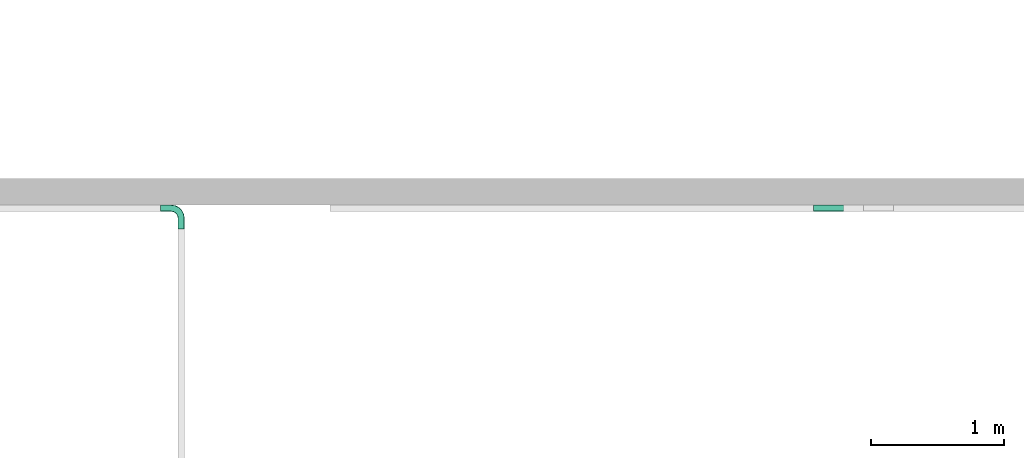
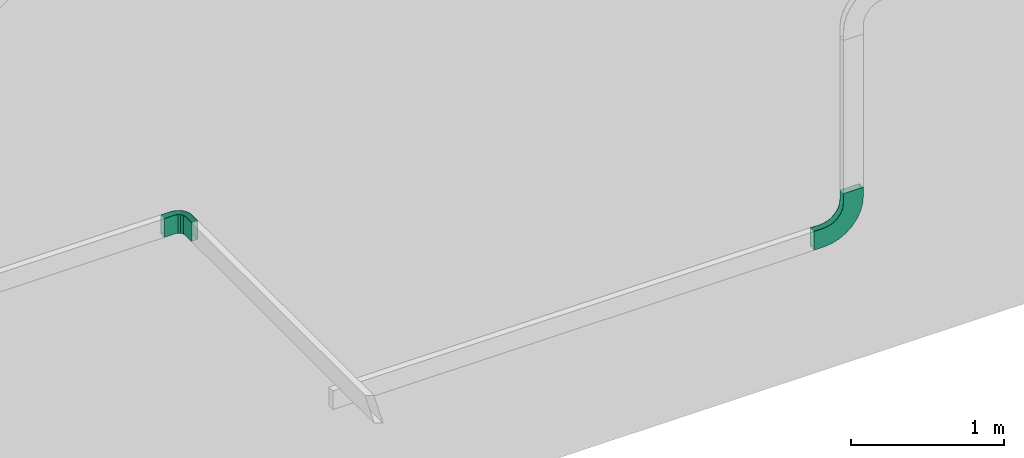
# One storey, part 38 of 197: 2 flow fittings.
"""IFC2X3 building model written with IfcOpenShell, lengths in metres."""

import ifcopenshell
import ifcopenshell.guid

model = None  # the IFC model being written
_history = None  # IfcOwnerHistory: only IFC2X3 demands one
_inside = {}  # id of a spatial element -> (the spatial element, [elements in it])
_under = {}  # id of a project, library or spatial element -> (it, [spatial elements below it])
_declared = {}  # id of a project -> (the project, [libraries it declares])
_typed = {}  # id of a type object -> (the type object, [elements of that type])
_made_of = {}  # id of a material, layer set ... -> (it, [elements and type objects made of it])


def new_model(schema):
    """Start an empty IFC model of exactly this schema.

    Asked for "IFC4X3", IfcOpenShell would pick the latest addendum, in which some entities
    have other attributes; the version numbers below select the first issue.
    IFC2X3 requires an IfcOwnerHistory on every rooted entity: one is made here for all.
    """
    global model, _history
    if schema == "IFC4X3":
        model = ifcopenshell.file(schema_version=(4, 3, 0, 0))
    else:
        model = ifcopenshell.file(schema=schema)
    _inside.clear()
    _under.clear()
    _declared.clear()
    _typed.clear()
    _made_of.clear()
    _history = None
    if model.schema == "IFC2X3":
        org = make("IfcOrganization", Name="unknown")
        user = make(
            "IfcPersonAndOrganization",
            ThePerson=make("IfcPerson", FamilyName="unknown"),
            TheOrganization=org,
        )
        app = make(
            "IfcApplication",
            ApplicationDeveloper=org,
            Version="unknown",
            ApplicationFullName="unknown",
            ApplicationIdentifier="unknown",
        )
        _history = make(
            "IfcOwnerHistory",
            OwningUser=user,
            OwningApplication=app,
            ChangeAction="ADDED",
            CreationDate=0,
        )
    return model


def make(cls, **values):
    """One entity of the class cls with the attributes given. An attribute that is None is left unset."""
    return model.create_entity(
        cls, **{name: value for name, value in values.items() if value is not None}
    )


def entity(cls, *values):
    """Any entity or typed value of the class cls, its attributes in the order of the schema. None: left unset."""
    e = model.create_entity(cls)
    for i, value in enumerate(values):
        if value is not None:
            e[i] = value
    return e


def rooted(cls, **values):
    """An entity with a GlobalId (a new one), such as an element, a storey or a relation."""
    return make(cls, GlobalId=ifcopenshell.guid.new(), OwnerHistory=_history, **values)


def si_unit(unit_type, name, prefix=None):
    """IfcSIUnit, for example si_unit("LENGTHUNIT", "METRE", prefix="MILLI")."""
    return make("IfcSIUnit", UnitType=unit_type, Prefix=prefix, Name=name)


def converted_unit(unit_type, name, factor, base, dimensions=None, offset=None):
    """IfcConversionBasedUnit, such as the inch: factor (a typed value) times the base unit."""
    return make(
        "IfcConversionBasedUnit"
        if offset is None
        else "IfcConversionBasedUnitWithOffset",
        ConversionOffset=offset,
        Dimensions=None
        if dimensions is None
        else entity("IfcDimensionalExponents", *dimensions),
        UnitType=unit_type,
        Name=name,
        ConversionFactor=make(
            "IfcMeasureWithUnit", ValueComponent=factor, UnitComponent=base
        ),
    )


def assignment(units):
    """IfcUnitAssignment: the units of a project."""
    return None if units is None else make("IfcUnitAssignment", Units=units)


def point(xyz):
    """IfcCartesianPoint."""
    return None if xyz is None else make("IfcCartesianPoint", Coordinates=xyz)


def direction(xyz):
    """IfcDirection."""
    return None if xyz is None else make("IfcDirection", DirectionRatios=xyz)


def frame(location, z_axis=None, x_axis=None):
    """IfcAxis2Placement3D, a coordinate frame: its origin and axes. An axis left out is left unset."""
    return make(
        "IfcAxis2Placement3D",
        Location=point(location),
        Axis=direction(z_axis),
        RefDirection=direction(x_axis),
    )


def origin():
    """The frame at (0, 0, 0) with its axes left unset."""
    return frame((0.0, 0.0, 0.0))


def place(relative_to, where):
    """IfcLocalPlacement: puts the frame where relative to a parent placement (None: the world)."""
    return make(
        "IfcLocalPlacement", PlacementRelTo=relative_to, RelativePlacement=where
    )


def context(
    kind, dimensions, precision=None, world=None, true_north=None, identifier=None
):
    """IfcGeometricRepresentationContext, for example the 3D "Model" context."""
    return make(
        "IfcGeometricRepresentationContext",
        ContextIdentifier=identifier,
        ContextType=kind,
        CoordinateSpaceDimension=dimensions,
        Precision=precision,
        WorldCoordinateSystem=world,
        TrueNorth=true_north,
    )


def subcontext(parent, identifier, kind, view, scale=None):
    """IfcGeometricRepresentationSubContext, for example "Body" below "Model"."""
    return make(
        "IfcGeometricRepresentationSubContext",
        ContextIdentifier=identifier,
        ContextType=kind,
        ParentContext=parent,
        TargetScale=scale,
        TargetView=view,
    )


def project(units=None, contexts=None):
    """IfcProject with its units and contexts."""
    return rooted(
        "IfcProject",
        Name="project",
        RepresentationContexts=contexts,
        UnitsInContext=assignment(units),
    )


def spatial(cls, under=None, at=None, **own):
    """A site, building, storey or space (cls), placed at a placement, below another one or the project."""
    s = rooted(cls, ObjectPlacement=at, **own)
    if under is not None:
        _under.setdefault(under.id(), (under, []))[1].append(s)
    return s


def faces_of(points, faces, orient=None, outer=None):
    """IfcFace entities. A face is a list of loops; a loop is a list of indices into points, from 0.

    orient and outer hold one flag for each loop. By default every Orientation is true, the
    first loop of a face is its IfcFaceOuterBound and the others are IfcFaceBound.
    """
    made = []
    for i, loops in enumerate(faces):
        bounds = []
        for j, loop in enumerate(loops):
            is_outer = j == 0 if outer is None else outer[i][j]
            bounds.append(
                make(
                    "IfcFaceOuterBound" if is_outer else "IfcFaceBound",
                    Bound=make("IfcPolyLoop", Polygon=[points[k] for k in loop]),
                    Orientation=True if orient is None else orient[i][j],
                )
            )
        made.append(make("IfcFace", Bounds=bounds))
    return made


def faceted_brep(points, faces, orient=None, outer=None, voids=None):
    """IfcFacetedBrep: a solid bounded by flat faces; with voids (closed shells), ...WithVoids."""
    shared = [point(p) for p in points]
    hull = make("IfcClosedShell", CfsFaces=faces_of(shared, faces, orient, outer))
    if voids is None:
        return make("IfcFacetedBrep", Outer=hull)
    return make(
        "IfcFacetedBrepWithVoids",
        Outer=hull,
        Voids=[
            make(cls, CfsFaces=faces_of(shared, fs, o, b)) for cls, fs, o, b in voids
        ],
    )


def shape(context_of_items, identifier, shape_type, items):
    """IfcShapeRepresentation: the items that make up one representation, for example the "Body"."""
    return make(
        "IfcShapeRepresentation",
        ContextOfItems=context_of_items,
        RepresentationIdentifier=identifier,
        RepresentationType=shape_type,
        Items=items,
    )


def source(mapping_origin, context_of_items, identifier, shape_type, items):
    """IfcRepresentationMap: a shape defined once, which mapped items show again and again."""
    return make(
        "IfcRepresentationMap",
        MappingOrigin=mapping_origin,
        MappedRepresentation=shape(context_of_items, identifier, shape_type, items),
    )


def transform(
    local_origin,
    x_axis=None,
    y_axis=None,
    z_axis=None,
    scale=None,
    scale2=None,
    scale3=None,
    uniform=True,
):
    """IfcCartesianTransformationOperator3D, or its non-uniform kind. x_axis, y_axis, z_axis: its Axis1, 2, 3."""
    if uniform:
        return make(
            "IfcCartesianTransformationOperator3D",
            Axis1=direction(x_axis),
            Axis2=direction(y_axis),
            LocalOrigin=point(local_origin),
            Scale=scale,
            Axis3=direction(z_axis),
        )
    return make(
        "IfcCartesianTransformationOperator3DnonUniform",
        Axis1=direction(x_axis),
        Axis2=direction(y_axis),
        LocalOrigin=point(local_origin),
        Scale=scale,
        Axis3=direction(z_axis),
        Scale2=scale2,
        Scale3=scale3,
    )


def mapped(mapping_source, mapping_target):
    """IfcMappedItem: shows the shape of a source again, moved by a transform."""
    return make(
        "IfcMappedItem", MappingSource=mapping_source, MappingTarget=mapping_target
    )


def material(Name=None, Category=None):
    """IfcMaterial."""
    return make("IfcMaterial", Name=Name, Category=Category)


def made_of(thing, what):
    """Note that an element or type object is made of a material, layer set ...; save() writes the relation."""
    if what is not None:
        _made_of.setdefault(what.id(), (what, []))[1].append(thing)
    return thing


def type_object(cls, material=None, **own):
    """A type object (cls), such as IfcWallType, which elements share."""
    return made_of(rooted(cls, **own), material)


def type_shapes(of_type, sources):
    """Give a type object the sources (RepresentationMaps) that its elements show as mapped items."""
    of_type.RepresentationMaps = sources


def element(
    cls,
    number,
    at=None,
    inside=None,
    cuts=None,
    type_object=None,
    material=None,
    context=None,
    identifier="Body",
    shape_type=None,
    held_by="IfcProductDefinitionShape",
    body=None,
    shapes=None,
    **own,
):
    """One element of the class cls, such as IfcWall. Its Tag is "e" and its number.

    at: its placement. inside: the storey or other place that contains it. cuts: it is an
    opening in that element (IfcRelVoidsElement). A single representation is given by context,
    identifier, shape_type and body (its items); several are given by shapes. held_by: the class
    of the entity that holds the representations. save() writes the other relations.
    """
    e = rooted(cls, Tag="e%d" % number, ObjectPlacement=at, **own)
    if body is not None:
        shapes = [shape(context, identifier, shape_type, body)]
    if shapes is not None:
        e.Representation = make(held_by, Representations=shapes)
    if inside is not None:
        _inside.setdefault(inside.id(), (inside, []))[1].append(e)
    if cuts is not None:
        rooted(
            "IfcRelVoidsElement", RelatingBuildingElement=cuts, RelatedOpeningElement=e
        )
    if type_object is not None:
        _typed.setdefault(type_object.id(), (type_object, []))[1].append(e)
    return made_of(e, material)


def aggregate(whole, parts):
    """IfcRelAggregates: a whole, such as a stair, and the parts it consists of."""
    return rooted("IfcRelAggregates", RelatingObject=whole, RelatedObjects=parts)


def save(model, path):
    """Write the relations noted so far, then the file.

    IfcRelAggregates (storeys below a building ...), IfcRelContainedInSpatialStructure (elements
    in a storey), IfcRelDefinesByType, IfcRelAssociatesMaterial and IfcRelDeclares: one each for
    every whole, place, type object, material and project.
    """
    for whole, parts in _under.values():
        aggregate(whole, parts)
    for where, things in _inside.values():
        rooted(
            "IfcRelContainedInSpatialStructure",
            RelatedElements=things,
            RelatingStructure=where,
        )
    for kind, things in _typed.values():
        rooted("IfcRelDefinesByType", RelatedObjects=things, RelatingType=kind)
    for what, things in _made_of.values():
        rooted("IfcRelAssociatesMaterial", RelatedObjects=things, RelatingMaterial=what)
    for by, libraries in _declared.values():
        rooted("IfcRelDeclares", RelatingContext=by, RelatedDefinitions=libraries)
    model.write(path)


model = new_model("IFC2X3")

# Units and contexts
model_context = context("Model", 3, precision=1e-05, world=origin(), true_north=direction((6.123031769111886e-17, 1.0)))
body_context = subcontext(model_context, "Body", "Model", "MODEL_VIEW")
ifc_project = project(units=[si_unit("LENGTHUNIT", "METRE"), converted_unit("PLANEANGLEUNIT", "DEGREE", entity("IfcPlaneAngleMeasure", 0.017453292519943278), si_unit("PLANEANGLEUNIT", "RADIAN"), dimensions=[0, 0, 0, 0, 0, 0, 0]), si_unit("AREAUNIT", "SQUARE_METRE")], contexts=[model_context])

# Site, building, storey
site_placement = place(None, origin())
site = spatial("IfcSite", under=ifc_project, at=site_placement, Name="Default", CompositionType="ELEMENT")
building_placement = place(site_placement, origin())
building = spatial("IfcBuilding", under=site, at=building_placement, CompositionType="ELEMENT")
storey_placement = place(building_placement, origin())
storey = spatial("IfcBuildingStorey", under=building, at=storey_placement, Name="Niveau 0", CompositionType="ELEMENT", Elevation=0.0)

# Flow fittings
ifc_material = material(Name="<Unnamed>")
cable_carrier_fitting_type_1 = type_object("IfcCableCarrierFittingType", Name="Chemin de câbles - Courbure concave:GOULOTTE", PredefinedType="NOTDEFINED", material=ifc_material)
shared_shape_1 = source(origin(), body_context, "Body", "Brep", [
    faceted_brep([(-0.2999999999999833, -0.0724600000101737, -0.022460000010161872), (-0.29999999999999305, 0.07499999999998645, -0.022460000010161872), (-0.29999999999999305, 0.07499999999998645, -0.025000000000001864), (-0.2999999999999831, -0.07500000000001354, -0.025000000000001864), (-0.2999999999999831, -0.07500000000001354, 0.024999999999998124), (-0.29999999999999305, 0.07499999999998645, 0.024999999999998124), (-0.29999999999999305, 0.07499999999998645, 0.022460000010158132), (-0.2999999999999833, -0.0724600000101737, 0.022460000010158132), (-0.22499999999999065, -0.0750000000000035, 0.024999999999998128), (-0.16647290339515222, -0.06923558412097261, 0.02499999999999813), (-0.11019497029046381, -0.05216385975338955, 0.02499999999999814), (-0.05832893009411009, -0.02444088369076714, 0.02499999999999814), (-0.012867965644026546, 0.01286796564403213, 0.024999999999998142), (0.024440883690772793, 0.058328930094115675, 0.024999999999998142), (0.05216385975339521, 0.11019497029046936, 0.024999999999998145), (0.0692355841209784, 0.16647290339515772, 0.024999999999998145), (0.07500000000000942, 0.2249999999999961, 0.024999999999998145), (0.07500000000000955, 0.2999999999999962, 0.024999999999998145), (-0.07499999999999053, 0.2999999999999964, 0.02499999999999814), (-0.07499999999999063, 0.2249999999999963, 0.02499999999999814), (-0.07673936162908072, 0.21178823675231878, 0.024999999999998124), (-0.0775555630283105, 0.20558857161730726, 0.024999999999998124), (-0.07883334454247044, 0.19588285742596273, 0.024999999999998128), (-0.08011112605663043, 0.18617714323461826, 0.02499999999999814), (-0.08385739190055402, 0.17713285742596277, 0.024999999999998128), (-0.08760365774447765, 0.16808857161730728, 0.024999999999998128), (-0.09134992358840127, 0.15904428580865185, 0.024999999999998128), (-0.0950961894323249, 0.14999999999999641, 0.02499999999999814), (-0.1010556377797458, 0.14223349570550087, 0.024999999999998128), (-0.10701508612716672, 0.13446699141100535, 0.024999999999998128), (-0.11297453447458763, 0.12670048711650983, 0.024999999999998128), (-0.11893398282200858, 0.1189339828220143, 0.02499999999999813), (-0.12670048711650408, 0.1129745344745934, 0.024999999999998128), (-0.13446699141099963, 0.10701508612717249, 0.024999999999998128), (-0.14223349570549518, 0.10105563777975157, 0.024999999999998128), (-0.1499999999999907, 0.09509618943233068, 0.02499999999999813), (-0.15904428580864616, 0.09134992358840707, 0.024999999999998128), (-0.16808857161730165, 0.08760365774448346, 0.024999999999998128), (-0.17713285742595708, 0.08385739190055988, 0.02499999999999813), (-0.18617714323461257, 0.08011112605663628, 0.02499999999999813), (-0.1958828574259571, 0.07883334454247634, 0.024999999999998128), (-0.2055885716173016, 0.07755556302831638, 0.024999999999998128), (-0.21178823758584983, 0.07673936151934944, 0.024999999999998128), (-0.22499999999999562, 0.07499999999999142, 0.024999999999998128), (-0.22499999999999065, -0.07500000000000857, -0.025000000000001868), (-0.16647290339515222, -0.06923558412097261, -0.02500000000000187), (-0.22499999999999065, 0.07499999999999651, -0.025000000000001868), (-0.2117882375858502, 0.0767393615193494, -0.025000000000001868), (-0.1985764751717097, 0.07847872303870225, -0.025000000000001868), (-0.18617714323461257, 0.08011112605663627, -0.02500000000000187), (-0.17713285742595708, 0.08385739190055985, -0.025000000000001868), (-0.16808857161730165, 0.08760365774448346, -0.025000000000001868), (-0.15904428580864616, 0.09134992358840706, -0.025000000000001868), (-0.1499999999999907, 0.09509618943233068, -0.02500000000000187), (-0.14223349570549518, 0.10105563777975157, -0.025000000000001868), (-0.13446699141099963, 0.10701508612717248, -0.025000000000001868), (-0.12670048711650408, 0.1129745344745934, -0.025000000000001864), (-0.11893398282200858, 0.11893398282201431, -0.02500000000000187), (-0.11297453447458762, 0.12670048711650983, -0.025000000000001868), (-0.1070150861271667, 0.13446699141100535, -0.025000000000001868), (-0.1010556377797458, 0.14223349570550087, -0.025000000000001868), (-0.0950961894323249, 0.14999999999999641, -0.025000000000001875), (-0.09134992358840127, 0.15904428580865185, -0.025000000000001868), (-0.08760365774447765, 0.16808857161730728, -0.025000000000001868), (-0.08385739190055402, 0.17713285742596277, -0.025000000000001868), (-0.08011112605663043, 0.18617714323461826, -0.025000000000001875), (-0.07847872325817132, 0.19857647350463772, -0.025000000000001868), (-0.07673936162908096, 0.21178823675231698, -0.025000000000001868), (-0.0749999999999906, 0.2249999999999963, -0.025000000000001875), (-0.07499999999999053, 0.2999999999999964, -0.025000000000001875), (0.07500000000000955, 0.2999999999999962, -0.025000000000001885), (0.07500000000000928, 0.22499999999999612, -0.025000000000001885), (0.06923558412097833, 0.16647290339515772, -0.025000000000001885), (0.05216385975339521, 0.11019497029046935, -0.025000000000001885), (0.024440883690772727, 0.058328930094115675, -0.02500000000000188), (-0.012867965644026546, 0.01286796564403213, -0.02500000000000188), (-0.05832893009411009, -0.02444088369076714, -0.025000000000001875), (-0.11019497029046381, -0.05216385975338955, -0.025000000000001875), (-0.22499999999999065, 0.07499999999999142, -0.02246000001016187), (-0.22499999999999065, 0.07499999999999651, 0.02246000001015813), (-0.22499999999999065, -0.07246000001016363, -0.02246000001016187), (-0.16696843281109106, -0.06674438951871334, -0.022460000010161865), (-0.11116698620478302, -0.04981720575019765, -0.02246000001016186), (-0.0597400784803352, -0.022328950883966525, -0.02246000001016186), (-0.014664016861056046, 0.014664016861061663, -0.022460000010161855), (0.022328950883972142, 0.05974007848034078, -0.022460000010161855), (0.049817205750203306, 0.11116698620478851, -0.02246000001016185), (0.0667443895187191, 0.1669684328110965, -0.02246000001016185), (0.0724600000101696, 0.2249999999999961, -0.02246000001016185), (0.07246000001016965, 0.2999999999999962, -0.02246000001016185), (-0.07499999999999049, 0.2999999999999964, -0.02246000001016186), (-0.07499999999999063, 0.2249999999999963, -0.02246000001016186), (-0.07627778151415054, 0.2152942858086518, -0.022460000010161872), (-0.0775555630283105, 0.20558857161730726, -0.022460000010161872), (-0.07883334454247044, 0.19588285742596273, -0.022460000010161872), (-0.08011112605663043, 0.1861771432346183, -0.02246000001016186), (-0.08385739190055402, 0.17713285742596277, -0.02246000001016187), (-0.08760365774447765, 0.16808857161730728, -0.022460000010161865), (-0.09134992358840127, 0.1590442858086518, -0.02246000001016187), (-0.09509618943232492, 0.14999999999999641, -0.02246000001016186), (-0.10105563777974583, 0.14223349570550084, -0.02246000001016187), (-0.10701508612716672, 0.13446699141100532, -0.022460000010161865), (-0.11297453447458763, 0.12670048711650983, -0.02246000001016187), (-0.11893398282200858, 0.11893398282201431, -0.022460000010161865), (-0.12670048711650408, 0.1129745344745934, -0.02246000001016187), (-0.13446699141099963, 0.10701508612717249, -0.02246000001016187), (-0.14223349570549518, 0.10105563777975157, -0.02246000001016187), (-0.1499999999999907, 0.0950961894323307, -0.022460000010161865), (-0.15904428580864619, 0.09134992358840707, -0.02246000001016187), (-0.16808857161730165, 0.08760365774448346, -0.022460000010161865), (-0.1771328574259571, 0.08385739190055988, -0.02246000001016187), (-0.18617714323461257, 0.08011112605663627, -0.022460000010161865), (-0.1958828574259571, 0.07883334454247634, -0.02246000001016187), (-0.2055885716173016, 0.07755556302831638, -0.02246000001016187), (-0.21178823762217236, 0.07673936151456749, -0.02246000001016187), (-0.22499999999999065, -0.07246000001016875, 0.02246000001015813), (-0.16696843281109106, -0.06674438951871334, 0.022460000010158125), (-0.21529428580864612, 0.07627778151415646, 0.02246000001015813), (-0.2055885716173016, 0.07755556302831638, 0.02246000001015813), (-0.1958828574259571, 0.07883334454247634, 0.02246000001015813), (-0.18617714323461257, 0.08011112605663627, 0.022460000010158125), (-0.17713285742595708, 0.08385739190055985, 0.02246000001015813), (-0.16808857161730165, 0.08760365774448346, 0.02246000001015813), (-0.15904428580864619, 0.09134992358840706, 0.02246000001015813), (-0.1499999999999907, 0.09509618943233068, 0.022460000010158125), (-0.14223349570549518, 0.10105563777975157, 0.02246000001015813), (-0.13446699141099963, 0.10701508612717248, 0.02246000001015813), (-0.12670048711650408, 0.1129745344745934, 0.02246000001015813), (-0.11893398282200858, 0.11893398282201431, 0.022460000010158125), (-0.11297453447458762, 0.12670048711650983, 0.02246000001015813), (-0.1070150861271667, 0.13446699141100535, 0.022460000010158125), (-0.10105563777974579, 0.14223349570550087, 0.02246000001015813), (-0.0950961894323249, 0.14999999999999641, 0.02246000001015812), (-0.09134992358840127, 0.1590442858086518, 0.02246000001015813), (-0.08760365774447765, 0.16808857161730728, 0.02246000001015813), (-0.08385739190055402, 0.17713285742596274, 0.02246000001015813), (-0.08011112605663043, 0.18617714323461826, 0.02246000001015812), (-0.07883334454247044, 0.1958828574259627, 0.02246000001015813), (-0.0775555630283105, 0.20558857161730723, 0.02246000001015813), (-0.07627778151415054, 0.2152942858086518, 0.02246000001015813), (-0.0749999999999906, 0.2249999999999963, 0.02246000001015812), (-0.07499999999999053, 0.2999999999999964, 0.02246000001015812), (0.0724600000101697, 0.2999999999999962, 0.02246000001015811), (0.07246000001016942, 0.2249999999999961, 0.02246000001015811), (0.06674438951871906, 0.1669684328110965, 0.02246000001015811), (0.04981720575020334, 0.11116698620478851, 0.02246000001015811), (0.022328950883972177, 0.05974007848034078, 0.022460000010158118), (-0.014664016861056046, 0.014664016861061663, 0.022460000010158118), (-0.0597400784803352, -0.022328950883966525, 0.02246000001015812), (-0.11116698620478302, -0.04981720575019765, 0.02246000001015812)], [[[0, 1, 2, 3, 4, 5, 6, 7]], [[5, 4, 8, 9, 10, 11, 12, 13, 14, 15, 16, 17, 18, 19, 20, 21, 22, 23, 24, 25, 26, 27, 28, 29, 30, 31, 32, 33, 34, 35, 36, 37, 38, 39, 40, 41, 42, 43]], [[4, 3, 44, 8]], [[45, 44, 3, 2, 46, 47, 48, 49, 50, 51, 52, 53, 54, 55, 56, 57, 58, 59, 60, 61, 62, 63, 64, 65, 66, 67, 68, 69, 70, 71, 72, 73, 74, 75, 76, 77]], [[2, 1, 78, 46]], [[6, 5, 43, 79]], [[1, 0, 80, 81, 82, 83, 84, 85, 86, 87, 88, 89, 90, 91, 92, 93, 94, 95, 96, 97, 98, 99, 100, 101, 102, 103, 104, 105, 106, 107, 108, 109, 110, 111, 112, 113, 114, 78]], [[0, 7, 115, 80]], [[116, 115, 7, 6, 79, 117, 118, 119, 120, 121, 122, 123, 124, 125, 126, 127, 128, 129, 130, 131, 132, 133, 134, 135, 136, 137, 138, 139, 140, 141, 142, 143, 144, 145, 146, 147, 148, 149]], [[9, 8, 44, 45]], [[45, 77, 10, 9]], [[76, 11, 10, 77]], [[75, 12, 11, 76]], [[13, 74, 73, 14]], [[14, 73, 72, 15]], [[15, 72, 71, 16]], [[75, 74, 13, 12]], [[46, 78, 114, 113, 112, 111, 49, 48, 47]], [[41, 40, 39, 120, 119, 118, 117, 79, 43, 42]], [[108, 107, 53, 52, 51, 50, 49, 111, 110, 109]], [[35, 124, 123, 122, 121, 120, 39, 38, 37, 36]], [[55, 54, 53, 107, 106, 105, 104, 103, 57, 56]], [[127, 126, 125, 124, 35, 34, 33, 32, 31, 128]], [[95, 94, 93, 92, 91, 68, 67, 66, 65]], [[137, 136, 23, 22, 21, 20, 19, 140, 139, 138]], [[95, 65, 64, 63, 62, 61, 99, 98, 97, 96]], [[24, 23, 136, 135, 134, 133, 132, 27, 26, 25]], [[57, 103, 102, 101, 100, 99, 61, 60, 59, 58]], [[128, 31, 30, 29, 28, 27, 132, 131, 130, 129]], [[81, 80, 115, 116]], [[149, 82, 81, 116]], [[82, 149, 148, 83]], [[148, 147, 84, 83]], [[86, 85, 146, 145]], [[87, 86, 145, 144]], [[88, 87, 144, 143]], [[147, 146, 85, 84]], [[69, 90, 89, 142, 141, 18, 17, 70]], [[16, 71, 70, 17]], [[68, 91, 90, 69]], [[140, 19, 18, 141]], [[88, 143, 142, 89]]]),
])
type_shapes(cable_carrier_fitting_type_1, [shared_shape_1])
flow_fitting_1_placement = place(storey_placement, frame((-524.361454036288, 151.82535524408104, 1.1007853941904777), z_axis=(0.0, -1.0, 0.0), x_axis=(1.0, 0.0, 0.0)))
element("IfcFlowFitting", 1, at=flow_fitting_1_placement, inside=storey, type_object=cable_carrier_fitting_type_1, material=ifc_material, Name="Chemin de câbles - Courbure concave:GOULOTTE", ObjectType="Chemin de câbles - Courbure concave:GOULOTTE", context=body_context, shape_type="MappedRepresentation", body=[
    mapped(shared_shape_1, transform((0.0, 0.0, 0.0), scale=1.0)),
])
cable_carrier_fitting_type_2 = type_object("IfcCableCarrierFittingType", Name="Chemin de câbles - Courbure:GOULOTTE CONTROLE ACCES", PredefinedType="NOTDEFINED", material=ifc_material)
shared_shape_2 = source(origin(), body_context, "Body", "Brep", [
    faceted_brep([(-0.1549999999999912, -0.022460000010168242, -0.07246000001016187), (-0.1549999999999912, 0.02246000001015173, -0.07246000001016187), (-0.1549999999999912, 0.02246000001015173, 0.07499999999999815), (-0.1549999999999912, 0.024999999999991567, 0.07499999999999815), (-0.1549999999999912, 0.024999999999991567, -0.07500000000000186), (-0.1549999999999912, -0.02500000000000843, -0.07500000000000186), (-0.1549999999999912, -0.02500000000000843, 0.07499999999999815), (-0.1549999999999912, -0.02246000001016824, 0.07499999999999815), (-0.07499999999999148, -0.02500000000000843, -0.07500000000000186), (-0.07499999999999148, -0.02500000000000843, 0.07499999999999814), (-0.04409830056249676, -0.020105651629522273, 0.07499999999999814), (-0.0162214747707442, -0.005901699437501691, 0.07499999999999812), (0.005901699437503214, 0.016221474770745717, 0.07499999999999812), (0.020105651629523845, 0.04409830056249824, 0.07499999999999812), (0.02500000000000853, 0.07499999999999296, 0.07499999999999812), (0.0250000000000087, 0.15499999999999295, 0.07499999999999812), (0.022460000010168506, 0.15499999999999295, 0.07499999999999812), (0.0224600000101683, 0.07499999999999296, 0.07499999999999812), (0.0176899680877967, 0.044883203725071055, 0.07499999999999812), (0.003846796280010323, 0.01771444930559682, 0.07499999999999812), (-0.01771444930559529, -0.0038467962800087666, 0.07499999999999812), (-0.04488320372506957, -0.01768996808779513, 0.07499999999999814), (-0.07499999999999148, -0.022460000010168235, 0.07499999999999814), (-0.07499999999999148, 0.02246000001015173, 0.07499999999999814), (-0.06494690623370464, 0.024459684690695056, 0.07499999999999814), (-0.0548938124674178, 0.02645936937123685, 0.07499999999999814), (-0.046371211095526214, 0.032153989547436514, 0.07499999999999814), (-0.03784860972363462, 0.037848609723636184, 0.07499999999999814), (-0.03215398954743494, 0.04637121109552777, 0.07499999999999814), (-0.02645936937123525, 0.05489381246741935, 0.07499999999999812), (-0.023985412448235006, 0.06733123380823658, 0.07499999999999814), (-0.02246000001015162, 0.07499999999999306, 0.07499999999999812), (-0.022460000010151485, 0.15499999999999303, 0.07499999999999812), (-0.02499999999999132, 0.15499999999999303, 0.07499999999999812), (-0.024999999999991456, 0.07499999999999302, 0.07499999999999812), (-0.026392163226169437, 0.06800112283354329, 0.07499999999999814), (-0.028806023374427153, 0.05586582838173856, 0.07499999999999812), (-0.03422534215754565, 0.04775524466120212, 0.07499999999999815), (-0.03964466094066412, 0.039644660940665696, 0.07499999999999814), (-0.04775524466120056, 0.034225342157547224, 0.07499999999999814), (-0.055865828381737, 0.028806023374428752, 0.07499999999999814), (-0.06543291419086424, 0.026903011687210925, 0.07499999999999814), (-0.07499999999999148, 0.024999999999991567, 0.07499999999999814), (-0.07499999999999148, -0.022460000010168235, -0.0724600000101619), (-0.04488320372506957, -0.01768996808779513, -0.07246000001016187), (-0.01771444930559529, -0.0038467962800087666, -0.07246000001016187), (0.003846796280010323, 0.01771444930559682, -0.07246000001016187), (0.0176899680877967, 0.044883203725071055, -0.07246000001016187), (0.02246000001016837, 0.07499999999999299, -0.07246000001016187), (0.022460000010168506, 0.15499999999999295, -0.07246000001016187), (-0.022460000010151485, 0.15499999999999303, -0.07246000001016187), (-0.02246000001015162, 0.07499999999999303, -0.07246000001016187), (-0.024459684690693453, 0.0649469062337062, -0.07246000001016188), (-0.02645936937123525, 0.05489381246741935, -0.07246000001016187), (-0.03215398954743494, 0.046371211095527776, -0.07246000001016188), (-0.03784860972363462, 0.03784860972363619, -0.07246000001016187), (-0.046371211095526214, 0.03215398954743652, -0.07246000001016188), (-0.0548938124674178, 0.02645936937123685, -0.07246000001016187), (-0.06494690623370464, 0.024459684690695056, -0.07246000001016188), (-0.07499999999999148, 0.02246000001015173, -0.07246000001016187), (-0.07499999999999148, 0.024999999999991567, -0.07500000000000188), (-0.04409830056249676, -0.020105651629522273, -0.07500000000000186), (-0.06543291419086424, 0.026903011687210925, -0.07500000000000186), (-0.055865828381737, 0.028806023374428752, -0.07500000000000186), (-0.04775524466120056, 0.034225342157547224, -0.07500000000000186), (-0.03964466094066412, 0.039644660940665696, -0.07500000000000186), (-0.03422534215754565, 0.04775524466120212, -0.07500000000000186), (-0.028806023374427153, 0.05586582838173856, -0.07500000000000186), (-0.02690301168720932, 0.06543291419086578, -0.07500000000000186), (-0.024999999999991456, 0.07499999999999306, -0.07500000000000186), (-0.02499999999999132, 0.15499999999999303, -0.07500000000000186), (0.0250000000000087, 0.15499999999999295, -0.07500000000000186), (0.02500000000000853, 0.07499999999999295, -0.07500000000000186), (0.020105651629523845, 0.04409830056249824, -0.07500000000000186), (0.005901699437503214, 0.016221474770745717, -0.07500000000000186), (-0.0162214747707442, -0.005901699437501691, -0.07500000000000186)], [[[0, 1, 2, 3, 4, 5, 6, 7]], [[6, 5, 8, 9]], [[7, 6, 9, 10, 11, 12, 13, 14, 15, 16, 17, 18, 19, 20, 21, 22]], [[2, 23, 24, 25, 26, 27, 28, 29, 30, 31, 32, 33, 34, 35, 36, 37, 38, 39, 40, 41, 42, 3]], [[0, 7, 22, 43]], [[1, 0, 43, 44, 45, 46, 47, 48, 49, 50, 51, 52, 53, 54, 55, 56, 57, 58, 59]], [[2, 1, 59, 23]], [[4, 3, 42, 60]], [[61, 8, 5, 4, 60, 62, 63, 64, 65, 66, 67, 68, 69, 70, 71, 72, 73, 74, 75]], [[61, 75, 11, 10]], [[8, 61, 10, 9]], [[75, 74, 12, 11]], [[12, 74, 73, 13]], [[13, 73, 72, 14]], [[20, 45, 44, 21]], [[22, 21, 44, 43]], [[20, 19, 46, 45]], [[47, 46, 19, 18]], [[48, 47, 18, 17]], [[57, 25, 24, 23, 59, 58]], [[55, 27, 26, 25, 57, 56]], [[51, 31, 30, 29, 53, 52]], [[27, 55, 54, 53, 29, 28]], [[62, 60, 42, 41, 40, 63]], [[39, 38, 65, 64, 63, 40]], [[35, 34, 69, 68, 67, 36]], [[66, 65, 38, 37, 36, 67]], [[70, 33, 32, 50, 49, 16, 15, 71]], [[14, 72, 71, 15]], [[48, 17, 16, 49]], [[31, 51, 50, 32]], [[69, 34, 33, 70]]]),
])
type_shapes(cable_carrier_fitting_type_2, [shared_shape_2])
flow_fitting_2_placement = place(storey_placement, frame((-529.423595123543, 151.82535524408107, 2.9257853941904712), z_axis=(0.0, 0.0, 1.0), x_axis=(0.0, 1.0, 0.0)))
element("IfcFlowFitting", 2, at=flow_fitting_2_placement, inside=storey, type_object=cable_carrier_fitting_type_2, material=ifc_material, Name="Chemin de câbles - Courbure:GOULOTTE CONTROLE ACCES", ObjectType="Chemin de câbles - Courbure:GOULOTTE CONTROLE ACCES", context=body_context, shape_type="MappedRepresentation", body=[
    mapped(shared_shape_2, transform((0.0, 0.0, 0.0), scale=1.0)),
])

save(model, "model.ifc")
